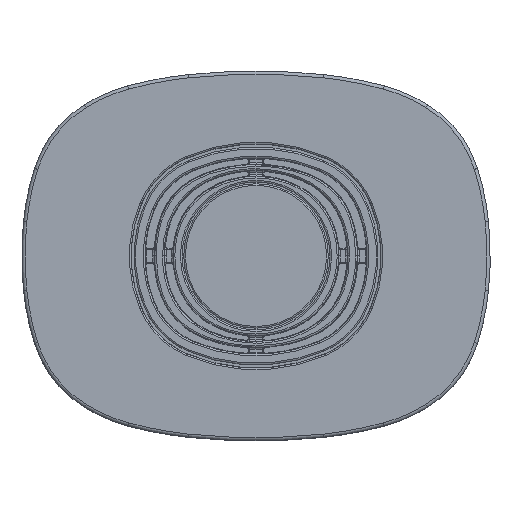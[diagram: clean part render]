
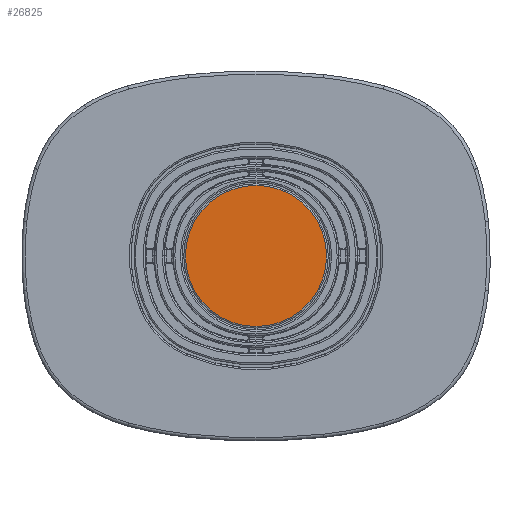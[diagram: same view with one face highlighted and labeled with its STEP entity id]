
A CAD part, top view. The second image highlights one B-rep face of the part: STEP entity #26825.
In plain terms, the highlighted planar face has unit normal (0, 0, 1).
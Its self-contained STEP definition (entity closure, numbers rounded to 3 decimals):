
#1982=PLANE('',#33609);
#7680=ORIENTED_EDGE('',*,*,#15103,.T.);
#15103=EDGE_CURVE('',#18923,#18923,#21208,.T.);
#18923=VERTEX_POINT('',#49357);
#21208=CIRCLE('',#33610,86.2);
#22861=EDGE_LOOP('',(#7680));
#24638=FACE_BOUND('',#22861,.T.);
#26825=ADVANCED_FACE('',(#24638),#1982,.T.);
#33609=AXIS2_PLACEMENT_3D('',#49355,#37939,#37940);
#33610=AXIS2_PLACEMENT_3D('',#49356,#37941,#37942);
#37939=DIRECTION('',(0.,0.,1.));
#37940=DIRECTION('',(1.,0.,0.));
#37941=DIRECTION('',(0.,0.,1.));
#37942=DIRECTION('',(1.,0.,0.));
#49355=CARTESIAN_POINT('',(-14.985,123.28,859.51));
#49356=CARTESIAN_POINT('',(0.,135.025,859.51));
#49357=CARTESIAN_POINT('',(86.2,135.025,859.51));
